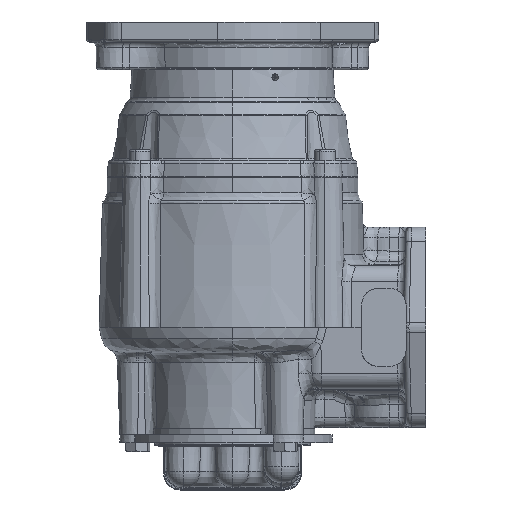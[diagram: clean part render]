
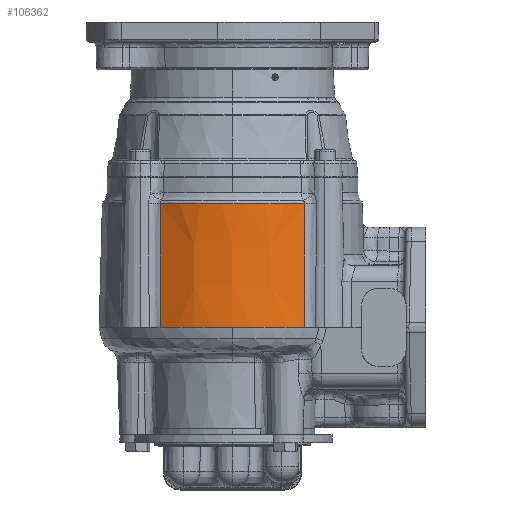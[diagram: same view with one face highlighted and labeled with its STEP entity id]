
A CAD part, left-side view. The second image highlights one B-rep face of the part: STEP entity #106362.
In plain terms, the highlighted conical face has half-angle 1.5 degrees and reference radius 76.073 mm.
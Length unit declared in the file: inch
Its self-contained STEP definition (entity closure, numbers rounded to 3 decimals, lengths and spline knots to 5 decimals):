
#1990 = CIRCLE ( 'NONE', #20447, 2.995 ) ;
#4954 = CARTESIAN_POINT ( 'NONE',  ( -3.42696, 5.14244, 1.88658 ) ) ;
#6443 = CIRCLE ( 'NONE', #57881, 2.995 ) ;
#7643 = VERTEX_POINT ( 'NONE', #107281 ) ;
#9132 = DIRECTION ( 'NONE',  ( 0., 0., -1. ) ) ;
#10828 = DIRECTION ( 'NONE',  ( 0., 0., -1. ) ) ;
#16188 = CONICAL_SURFACE ( 'NONE', #63418, 2.995, 0.026 ) ;
#17570 = ORIENTED_EDGE ( 'NONE', *, *, #30756, .T. ) ;
#17882 = CARTESIAN_POINT ( 'NONE',  ( -0.9685, 3.51989, 0. ) ) ;
#20447 = AXIS2_PLACEMENT_3D ( 'NONE', #17882, #68678, #124744 ) ;
#28446 = CARTESIAN_POINT ( 'NONE',  ( -0.9685, 3.51989, 2.77827 ) ) ;
#30756 = EDGE_CURVE ( 'NONE', #96492, #99204, #33401, .T. ) ;
#31827 = EDGE_CURVE ( 'NONE', #7643, #118161, #6443, .T. ) ;
#33055 = B_SPLINE_CURVE_WITH_KNOTS ( 'NONE', 3,
 ( #120774, #42866, #52521, #111740 ),
 .UNSPECIFIED., .F., .F.,
 ( 4, 4 ),
 ( 0., 1. ),
 .UNSPECIFIED. ) ;
#33401 = CIRCLE ( 'NONE', #96990, 2.92225 ) ;
#37497 = DIRECTION ( 'NONE',  ( -1., 0., 0. ) ) ;
#38974 = CARTESIAN_POINT ( 'NONE',  ( -3.4002, 1.89928, 2.77827 ) ) ;
#42866 = CARTESIAN_POINT ( 'NONE',  ( -3.45445, 1.89501, 0.96047 ) ) ;
#50848 = CARTESIAN_POINT ( 'NONE',  ( -3.9635, 3.51989, 0. ) ) ;
#52521 = CARTESIAN_POINT ( 'NONE',  ( -3.42697, 1.89734, 1.88656 ) ) ;
#55181 = FACE_OUTER_BOUND ( 'NONE', #105322, .T. ) ;
#56443 = DIRECTION ( 'NONE',  ( 0., 0., -1. ) ) ;
#57881 = AXIS2_PLACEMENT_3D ( 'NONE', #60398, #10828, #108664 ) ;
#59631 = CARTESIAN_POINT ( 'NONE',  ( -3.4002, 5.14049, 2.77827 ) ) ;
#60398 = CARTESIAN_POINT ( 'NONE',  ( -0.9685, 3.51989, 0. ) ) ;
#63418 = AXIS2_PLACEMENT_3D ( 'NONE', #63598, #56443, #93184 ) ;
#63598 = CARTESIAN_POINT ( 'NONE',  ( -0.9685, 3.51989, 0. ) ) ;
#68678 = DIRECTION ( 'NONE',  ( 0., 0., -1. ) ) ;
#68880 = CARTESIAN_POINT ( 'NONE',  ( -3.48267, 5.14745, 0. ) ) ;
#76565 = ORIENTED_EDGE ( 'NONE', *, *, #79711, .F. ) ;
#77378 = EDGE_CURVE ( 'NONE', #7643, #96492, #33055, .T. ) ;
#79711 = EDGE_CURVE ( 'NONE', #118161, #82899, #1990, .T. ) ;
#82899 = VERTEX_POINT ( 'NONE', #92139 ) ;
#92139 = CARTESIAN_POINT ( 'NONE',  ( -3.48267, 5.14745, 0. ) ) ;
#92523 = ORIENTED_EDGE ( 'NONE', *, *, #77378, .T. ) ;
#93107 = CARTESIAN_POINT ( 'NONE',  ( -3.4002, 5.14049, 2.77827 ) ) ;
#93184 = DIRECTION ( 'NONE',  ( 0., 1., 0. ) ) ;
#94728 = ORIENTED_EDGE ( 'NONE', *, *, #126254, .T. ) ;
#96492 = VERTEX_POINT ( 'NONE', #38974 ) ;
#96990 = AXIS2_PLACEMENT_3D ( 'NONE', #28446, #9132, #37497 ) ;
#99204 = VERTEX_POINT ( 'NONE', #59631 ) ;
#103959 = ORIENTED_EDGE ( 'NONE', *, *, #31827, .F. ) ;
#105322 = EDGE_LOOP ( 'NONE', ( #103959, #92523, #17570, #94728, #76565 ) ) ;
#106362 = ADVANCED_FACE ( 'NONE', ( #55181 ), #16188, .T. ) ;
#107281 = CARTESIAN_POINT ( 'NONE',  ( -3.48267, 1.89232, 0. ) ) ;
#108664 = DIRECTION ( 'NONE',  ( 1., 0., 0. ) ) ;
#109418 = CARTESIAN_POINT ( 'NONE',  ( -3.45445, 5.14477, 0.96049 ) ) ;
#111695 = B_SPLINE_CURVE_WITH_KNOTS ( 'NONE', 3,
 ( #93107, #4954, #109418, #68880 ),
 .UNSPECIFIED., .F., .F.,
 ( 4, 4 ),
 ( 0., 1. ),
 .UNSPECIFIED. ) ;
#111740 = CARTESIAN_POINT ( 'NONE',  ( -3.4002, 1.89928, 2.77827 ) ) ;
#118161 = VERTEX_POINT ( 'NONE', #50848 ) ;
#120774 = CARTESIAN_POINT ( 'NONE',  ( -3.48267, 1.89232, 0. ) ) ;
#124744 = DIRECTION ( 'NONE',  ( 1., 0., 0. ) ) ;
#126254 = EDGE_CURVE ( 'NONE', #99204, #82899, #111695, .T. ) ;
